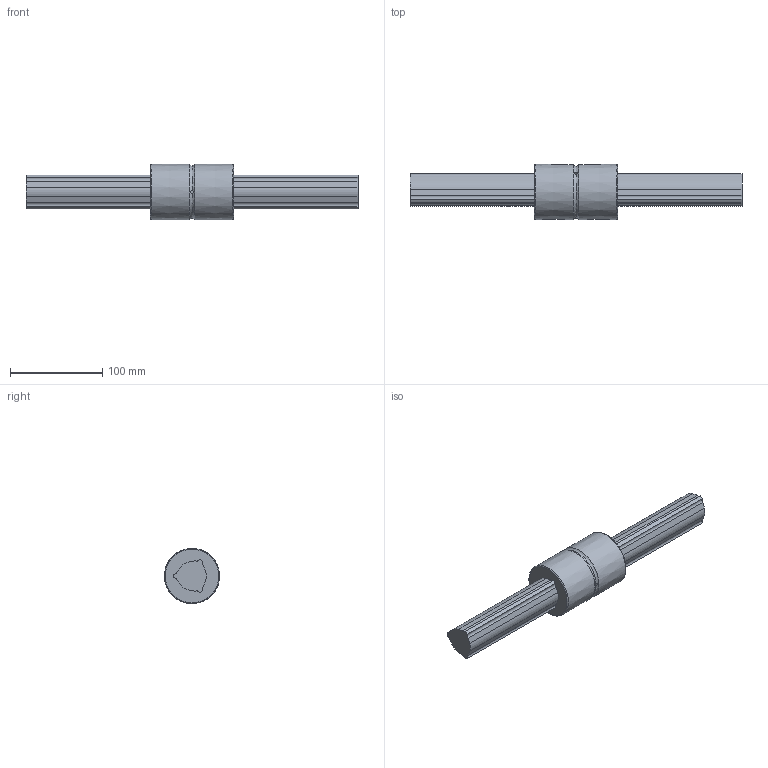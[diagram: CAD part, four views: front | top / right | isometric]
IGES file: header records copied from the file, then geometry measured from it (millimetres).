
Start section: Data from Parasolid IGES Translator 26.0.171, Copyright(c) 2006 Siemens PLM Software. All Rights Reserved.
Global section: file name: LBS40+360L(901350).igs; native system: By Siemens PLM Incorporated; preprocessor: XPlus GENERIC/IGES 26.0.171; author: Noname; organization: Noname; date: 20240523.115832; units: millimetre
Bounding box: 360 x 60 x 60 mm (x, y, z)
Surface area: 75429.9 mm2 (no closed solid volume)
Topology: 0 solids, 0 shells, 63 faces, 338 edges, 331 vertices
Faces by surface type: revolution 41, extrusion 22
